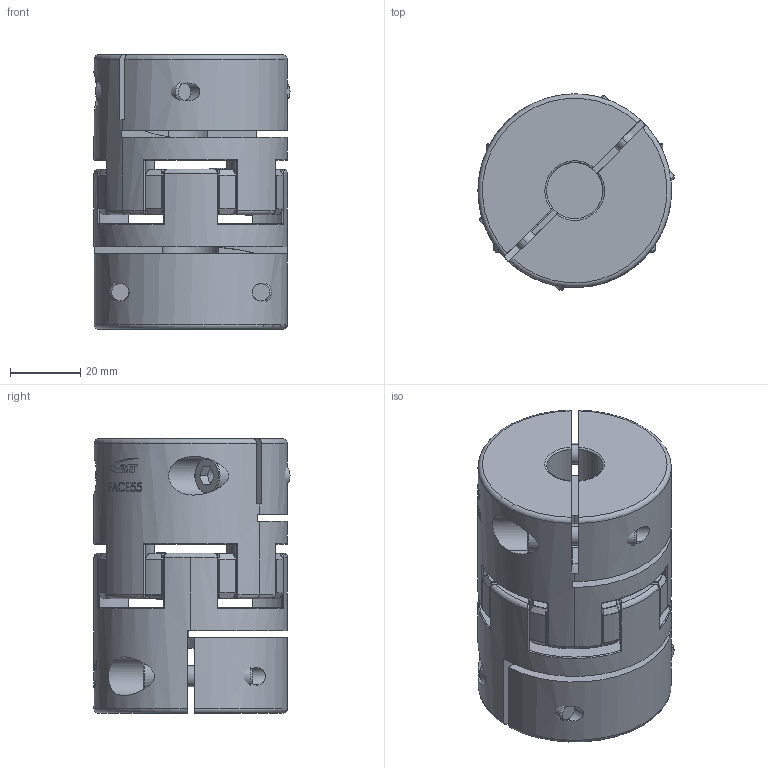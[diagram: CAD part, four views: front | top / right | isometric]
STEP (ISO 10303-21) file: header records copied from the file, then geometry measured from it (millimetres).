
FILE_DESCRIPTION (( 'STEP AP203' ), '1' );
FILE_NAME ('FACE55B-16x16.STEP', '2014-12-01T08:04:08', ( '123' ), ( '' ), 'SwSTEP 2.0', 'SolidWorks 2014', '' );
FILE_SCHEMA (( 'CONFIG_CONTROL_DESIGN' ));
Length unit declared in the file: millimetre
Products named in the file (1): FACE55B-16x16
Bounding box: 55.75 x 55.75 x 78 mm (x, y, z)
Surface area: 41849.6 mm2 (no closed solid volume)
Topology: 0 solids, 20 shells, 544 faces, 2130 edges, 1521 vertices
Faces by surface type: cylinder 152, torus 131, plane 93, bspline 74, cone 68, sphere 26
Entity records: 30912 total; most frequent: CARTESIAN_POINT 14315, DIRECTION 3437, ORIENTED_EDGE 3098, EDGE_CURVE 2110, VERTEX_POINT 1515, AXIS2_PLACEMENT_3D 1488, CIRCLE 1017, B_SPLINE_CURVE_WITH_KNOTS 632
